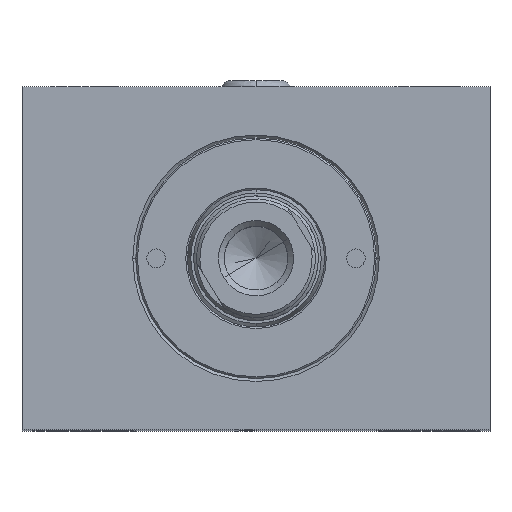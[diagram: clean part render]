
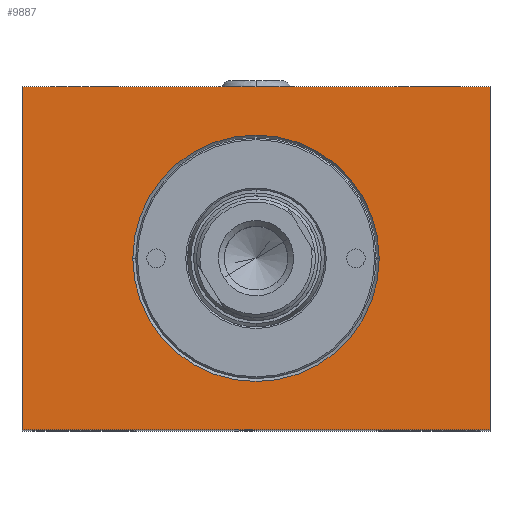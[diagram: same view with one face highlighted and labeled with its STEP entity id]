
A CAD part, top view. The second image highlights one B-rep face of the part: STEP entity #9887.
In plain terms, the highlighted planar face has unit normal (0, 0, 1).
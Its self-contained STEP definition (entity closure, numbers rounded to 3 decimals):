
#30 = ORIENTED_EDGE ( 'NONE', *, *, #2510, .T. ) ;
#135 = ORIENTED_EDGE ( 'NONE', *, *, #2214, .T. ) ;
#267 = DIRECTION ( 'NONE',  ( -1., 0., 0. ) ) ;
#394 = VECTOR ( 'NONE', #9615, 1000. ) ;
#465 = LINE ( 'NONE', #7203, #5373 ) ;
#646 = CARTESIAN_POINT ( 'NONE',  ( 37.5, 27.5, 135. ) ) ;
#863 = DIRECTION ( 'NONE',  ( -1., 0., 0. ) ) ;
#920 = CARTESIAN_POINT ( 'NONE',  ( 0., 0., 135. ) ) ;
#939 = LINE ( 'NONE', #1581, #3347 ) ;
#1381 = VECTOR ( 'NONE', #267, 1000. ) ;
#1443 = EDGE_LOOP ( 'NONE', ( #30, #3232, #135, #6351 ) ) ;
#1493 = CARTESIAN_POINT ( 'NONE',  ( 75., 55., 135. ) ) ;
#1581 = CARTESIAN_POINT ( 'NONE',  ( 0., 0., 135. ) ) ;
#1774 = CARTESIAN_POINT ( 'NONE',  ( 17.75, 27.5, 135. ) ) ;
#1802 = VERTEX_POINT ( 'NONE', #11273 ) ;
#1957 = EDGE_LOOP ( 'NONE', ( #12705, #11846 ) ) ;
#2214 = EDGE_CURVE ( 'NONE', #1802, #3621, #465, .T. ) ;
#2330 = AXIS2_PLACEMENT_3D ( 'NONE', #9891, #10977, #863 ) ;
#2510 = EDGE_CURVE ( 'NONE', #7377, #12677, #939, .T. ) ;
#3232 = ORIENTED_EDGE ( 'NONE', *, *, #10022, .T. ) ;
#3347 = VECTOR ( 'NONE', #8647, 1000. ) ;
#3604 = CARTESIAN_POINT ( 'NONE',  ( 0., 0., 135. ) ) ;
#3621 = VERTEX_POINT ( 'NONE', #1493 ) ;
#3862 = EDGE_CURVE ( 'NONE', #8932, #6866, #7886, .T. ) ;
#4620 = EDGE_CURVE ( 'NONE', #3621, #7377, #12392, .T. ) ;
#5171 = CARTESIAN_POINT ( 'NONE',  ( 57.25, 27.5, 135. ) ) ;
#5373 = VECTOR ( 'NONE', #6026, 1000. ) ;
#6026 = DIRECTION ( 'NONE',  ( 0., 1., 0. ) ) ;
#6305 = CARTESIAN_POINT ( 'NONE',  ( 0., 55., 135. ) ) ;
#6351 = ORIENTED_EDGE ( 'NONE', *, *, #4620, .T. ) ;
#6866 = VERTEX_POINT ( 'NONE', #5171 ) ;
#7197 = LINE ( 'NONE', #11565, #394 ) ;
#7203 = CARTESIAN_POINT ( 'NONE',  ( 75., 0., 135. ) ) ;
#7205 = DIRECTION ( 'NONE',  ( -1., 0., 0. ) ) ;
#7300 = DIRECTION ( 'NONE',  ( 0., 0., -1. ) ) ;
#7377 = VERTEX_POINT ( 'NONE', #11193 ) ;
#7686 = FACE_BOUND ( 'NONE', #1957, .T. ) ;
#7886 = CIRCLE ( 'NONE', #11118, 19.75 ) ;
#8647 = DIRECTION ( 'NONE',  ( 0., -1., 0. ) ) ;
#8817 = DIRECTION ( 'NONE',  ( 0., 0., -1. ) ) ;
#8922 = PLANE ( 'NONE',  #9371 ) ;
#8932 = VERTEX_POINT ( 'NONE', #1774 ) ;
#9371 = AXIS2_PLACEMENT_3D ( 'NONE', #920, #7300, #7205 ) ;
#9615 = DIRECTION ( 'NONE',  ( 1., 0., 0. ) ) ;
#9887 = ADVANCED_FACE ( 'NONE', ( #7686, #11428 ), #8922, .F. ) ;
#9891 = CARTESIAN_POINT ( 'NONE',  ( 37.5, 27.5, 135. ) ) ;
#10022 = EDGE_CURVE ( 'NONE', #12677, #1802, #7197, .T. ) ;
#10977 = DIRECTION ( 'NONE',  ( 0., 0., -1. ) ) ;
#11118 = AXIS2_PLACEMENT_3D ( 'NONE', #646, #8817, #12779 ) ;
#11193 = CARTESIAN_POINT ( 'NONE',  ( 0., 55., 135. ) ) ;
#11273 = CARTESIAN_POINT ( 'NONE',  ( 75., 0., 135. ) ) ;
#11428 = FACE_OUTER_BOUND ( 'NONE', #1443, .T. ) ;
#11565 = CARTESIAN_POINT ( 'NONE',  ( 0., 0., 135. ) ) ;
#11846 = ORIENTED_EDGE ( 'NONE', *, *, #3862, .T. ) ;
#11853 = CIRCLE ( 'NONE', #2330, 19.75 ) ;
#12248 = EDGE_CURVE ( 'NONE', #6866, #8932, #11853, .T. ) ;
#12392 = LINE ( 'NONE', #6305, #1381 ) ;
#12677 = VERTEX_POINT ( 'NONE', #3604 ) ;
#12705 = ORIENTED_EDGE ( 'NONE', *, *, #12248, .T. ) ;
#12779 = DIRECTION ( 'NONE',  ( -1., 0., 0. ) ) ;
